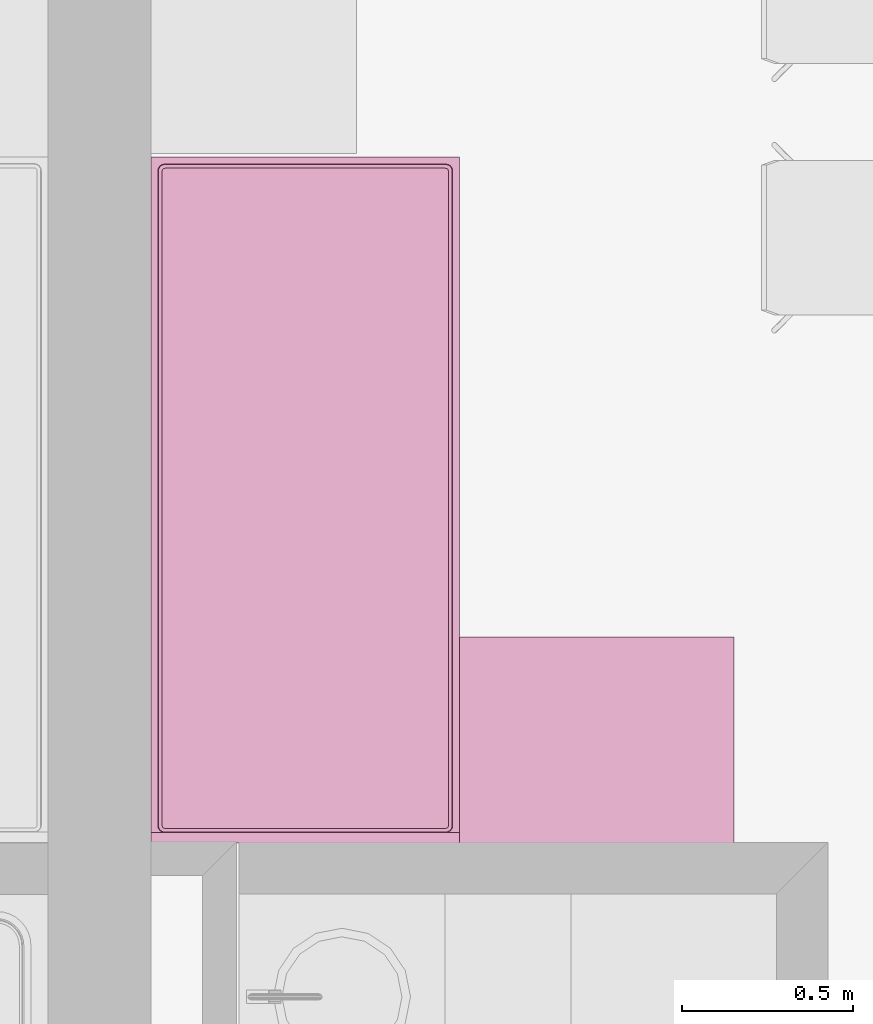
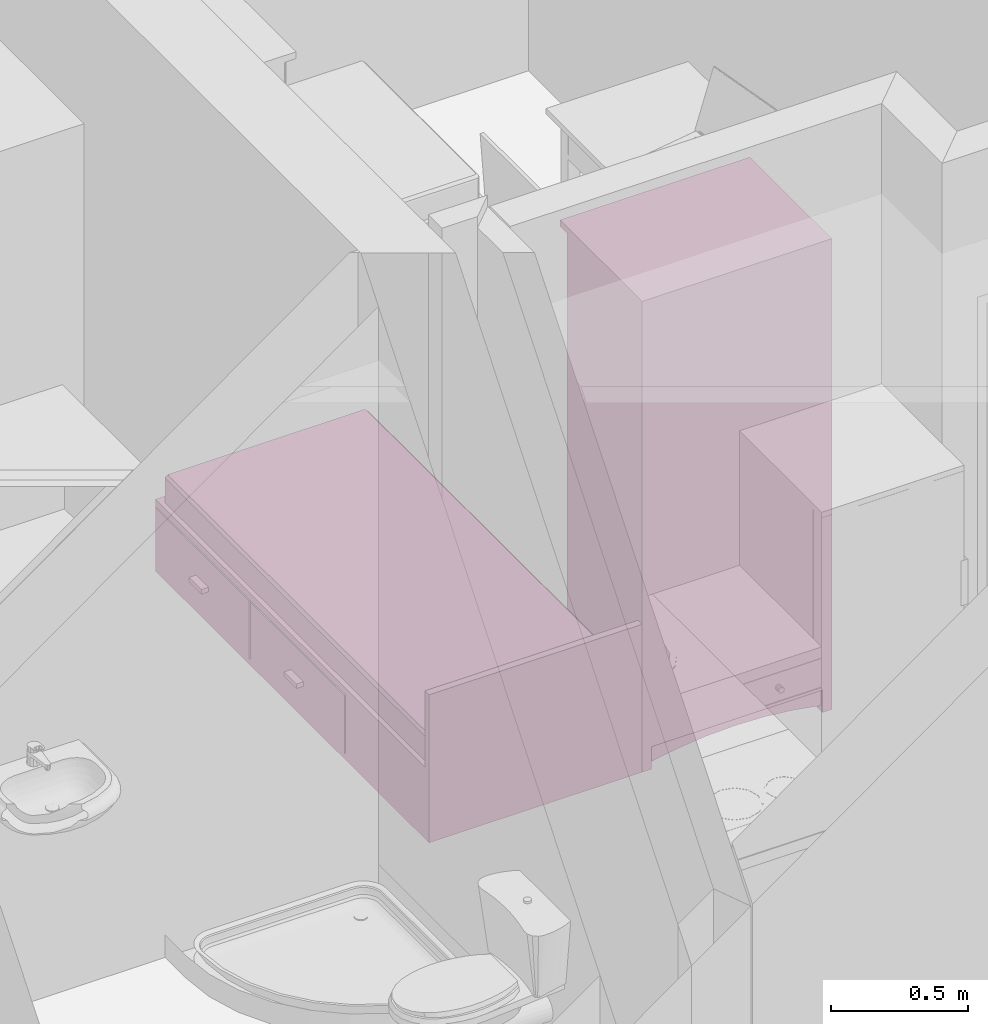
# One storey, part 137 of 172: 2 furnishings.
"""IFC2X3 building model written with IfcOpenShell, lengths in millimetres."""

from ifc_helpers import new_model, entity, si_unit, converted_unit, money_unit, direction, frame, origin_with_axes, place, context, subcontext, project, spatial, faceted_brep, source, transform, mapped, material, material_list, type_object, element, save


model = new_model("IFC2X3")

# Units and contexts
model_context = context("Model", 3, precision=1e-05, world=origin_with_axes(), true_north=direction((0.0, 1.0)))
body_context = subcontext(model_context, "Body", "Model", "MODEL_VIEW")
ifc_project = project(units=[si_unit("LENGTHUNIT", "METRE", prefix="MILLI"), si_unit("AREAUNIT", "SQUARE_METRE"), si_unit("VOLUMEUNIT", "CUBIC_METRE"), converted_unit("PLANEANGLEUNIT", "DEGREE", entity("IfcPlaneAngleMeasure", 0.0174532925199), si_unit("PLANEANGLEUNIT", "RADIAN"), dimensions=[0, 0, 0, 0, 0, 0, 0]), si_unit("SOLIDANGLEUNIT", "STERADIAN"), money_unit("USD"), converted_unit("TIMEUNIT", "Year", entity("IfcTimeMeasure", 31556926.0), si_unit("TIMEUNIT", "SECOND"), dimensions=[0, 0, 0, 0, 0, 0, 0]), si_unit("MASSUNIT", "GRAM"), si_unit("THERMODYNAMICTEMPERATUREUNIT", "DEGREE_CELSIUS"), si_unit("LUMINOUSINTENSITYUNIT", "LUMEN")], contexts=[model_context])

# Site, building, storey
site_placement = place(None, origin_with_axes())
site = spatial("IfcSite", under=ifc_project, at=site_placement, Name="Site", CompositionType="ELEMENT")
building_placement = place(site_placement, origin_with_axes())
building = spatial("IfcBuilding", under=site, at=building_placement, Name="Building", CompositionType="ELEMENT")
storey_placement = place(building_placement, frame((0.0, 0.0, 3200.0), z_axis=(0.0, 0.0, 1.0), x_axis=(1.0, 0.0, 0.0)))
storey = spatial("IfcBuildingStorey", under=building, at=storey_placement, Name="3KORRUS", CompositionType="ELEMENT", Elevation=3200.0)

# Furnishings
ifc_material = material(Name="Background")
ifc_material_list = material_list([ifc_material])
furnishing_element_type_1 = type_object("IfcFurnishingElementType", Name="Bed 19")
shared_shape_1 = source(origin_with_axes(), body_context, "Body", "Brep", [
    faceted_brep([(900.0, 1970.0, 0.0), (0.0, 1970.0, 0.0), (0.0, 2000.0, 0.0), (900.0, 2000.0, 0.0), (900.0, 1970.0, 660.0), (0.0, 1970.0, 660.0), (0.0, 2000.0, 660.0), (900.0, 2000.0, 660.0)], [[[0, 1, 2, 3]], [[1, 0, 4, 5]], [[2, 1, 5, 6]], [[3, 2, 6, 7]], [[0, 3, 7, 4]], [[5, 4, 7, 6]]]),
    faceted_brep([(900.0, 0.0, 0.0), (0.0, 0.0, 0.0), (0.0, 1970.0, 0.0), (900.0, 1970.0, 0.0), (900.0, 0.0, 320.0), (0.0, 0.0, 320.0), (0.0, 1970.0, 320.0), (900.0, 1970.0, 320.0)], [[[0, 1, 2, 3]], [[1, 0, 4, 5]], [[2, 1, 5, 6]], [[3, 2, 6, 7]], [[0, 3, 7, 4]], [[5, 4, 7, 6]]]),
    faceted_brep([(905.0, 10.0, 30.0), (900.0, 10.0, 30.0), (900.0, 695.0, 30.0), (905.0, 695.0, 30.0), (905.0, 10.0, 290.0), (900.0, 10.0, 290.0), (900.0, 695.0, 290.0), (905.0, 695.0, 290.0)], [[[0, 1, 2, 3]], [[1, 0, 4, 5]], [[2, 1, 5, 6]], [[3, 2, 6, 7]], [[0, 3, 7, 4]], [[5, 4, 7, 6]]]),
    faceted_brep([(935.0, 307.5, 150.0), (905.0, 307.5, 150.0), (905.0, 397.5, 150.0), (935.0, 397.5, 150.0), (935.0, 307.5, 170.0), (905.0, 307.5, 170.0), (905.0, 397.5, 170.0), (935.0, 397.5, 170.0)], [[[0, 1, 2, 3]], [[1, 0, 4, 5]], [[2, 1, 5, 6]], [[3, 2, 6, 7]], [[0, 3, 7, 4]], [[5, 4, 7, 6]]]),
    faceted_brep([(905.0, 705.0, 30.0), (900.0, 705.0, 30.0), (900.0, 1390.0, 30.0), (905.0, 1390.0, 30.0), (905.0, 705.0, 290.0), (900.0, 705.0, 290.0), (900.0, 1390.0, 290.0), (905.0, 1390.0, 290.0)], [[[0, 1, 2, 3]], [[1, 0, 4, 5]], [[2, 1, 5, 6]], [[3, 2, 6, 7]], [[0, 3, 7, 4]], [[5, 4, 7, 6]]]),
    faceted_brep([(935.0, 1002.5, 150.0), (905.0, 1002.5, 150.0), (905.0, 1092.5, 150.0), (935.0, 1092.5, 150.0), (935.0, 1002.5, 170.0), (905.0, 1002.5, 170.0), (905.0, 1092.5, 170.0), (935.0, 1092.5, 170.0)], [[[0, 1, 2, 3]], [[1, 0, 4, 5]], [[2, 1, 5, 6]], [[3, 2, 6, 7]], [[0, 3, 7, 4]], [[5, 4, 7, 6]]]),
    faceted_brep([(20.0, 40.0, 350.0), (20.0, 1950.0, 350.0), (21.522, 1957.654, 350.0), (25.858, 1964.142, 350.0), (32.346, 1968.478, 350.0), (40.0, 1970.0, 350.0), (860.0, 1970.0, 350.0), (867.654, 1968.478, 350.0), (874.142, 1964.142, 350.0), (878.478, 1957.654, 350.0), (880.0, 1950.0, 350.0), (880.0, 40.0, 350.0), (878.478, 32.346, 350.0), (874.142, 25.858, 350.0), (867.654, 21.522, 350.0), (860.0, 20.0, 350.0), (40.0, 20.0, 350.0), (32.346, 21.522, 350.0), (25.858, 25.858, 350.0), (21.522, 32.346, 350.0), (20.0, 40.0, 420.0), (20.0, 1950.0, 420.0), (21.522, 1957.654, 420.0), (25.858, 1964.142, 420.0), (32.346, 1968.478, 420.0), (40.0, 1970.0, 420.0), (860.0, 1970.0, 420.0), (867.654, 1968.478, 420.0), (874.142, 1964.142, 420.0), (878.478, 1957.654, 420.0), (880.0, 1950.0, 420.0), (880.0, 40.0, 420.0), (878.478, 32.346, 420.0), (874.142, 25.858, 420.0), (867.654, 21.522, 420.0), (860.0, 20.0, 420.0), (40.0, 20.0, 420.0), (32.346, 21.522, 420.0), (25.858, 25.858, 420.0), (21.522, 32.346, 420.0), (21.522, 40.15, 427.654), (21.522, 1949.85, 427.654), (22.956, 1957.06, 427.654), (26.955, 1963.045, 427.654), (32.94, 1967.044, 427.654), (40.15, 1968.478, 427.654), (859.85, 1968.478, 427.654), (867.06, 1967.044, 427.654), (873.045, 1963.045, 427.654), (877.044, 1957.06, 427.654), (878.478, 1949.85, 427.654), (878.478, 40.15, 427.654), (877.044, 32.94, 427.654), (873.045, 26.955, 427.654), (867.06, 22.956, 427.654), (859.85, 21.522, 427.654), (40.15, 21.522, 427.654), (32.94, 22.956, 427.654), (26.955, 26.955, 427.654), (22.956, 32.94, 427.654), (32.346, 41.216, 438.478), (32.346, 1948.784, 438.478), (33.152, 1952.836, 438.478), (34.759, 1955.241, 438.478), (37.164, 1956.848, 438.478), (41.216, 1957.654, 438.478), (858.784, 1957.654, 438.478), (862.836, 1956.848, 438.478), (865.241, 1955.241, 438.478), (866.848, 1952.836, 438.478), (867.654, 1948.784, 438.478), (867.654, 41.216, 438.478), (866.848, 37.164, 438.478), (865.241, 34.759, 438.478), (862.836, 33.152, 438.478), (858.784, 32.346, 438.478), (41.216, 32.346, 438.478), (37.164, 33.152, 438.478), (34.759, 34.759, 438.478), (33.152, 37.164, 438.478), (40.0, 41.97, 440.0), (40.0, 1948.03, 440.0), (40.327, 1949.673, 440.0), (40.0, 1950.0, 439.924), (41.97, 1950.0, 440.0), (858.03, 1950.0, 440.0), (859.673, 1949.673, 440.0), (860.0, 1950.0, 439.924), (860.0, 1948.03, 440.0), (860.0, 41.97, 440.0), (859.673, 40.327, 440.0), (860.0, 40.0, 439.924), (858.03, 40.0, 440.0), (41.97, 40.0, 440.0), (40.327, 40.327, 440.0), (40.0, 40.0, 439.924)], [[[0, 1, 2, 3, 4, 5, 6, 7, 8, 9, 10, 11, 12, 13, 14, 15, 16, 17, 18, 19]], [[1, 0, 20, 21]], [[2, 1, 21, 22]], [[3, 2, 22, 23]], [[4, 3, 23, 24]], [[5, 4, 24, 25]], [[6, 5, 25, 26]], [[7, 6, 26, 27]], [[8, 7, 27, 28]], [[9, 8, 28, 29]], [[10, 9, 29, 30]], [[11, 10, 30, 31]], [[12, 11, 31, 32]], [[13, 12, 32, 33]], [[14, 13, 33, 34]], [[15, 14, 34, 35]], [[16, 15, 35, 36]], [[17, 16, 36, 37]], [[18, 17, 37, 38]], [[19, 18, 38, 39]], [[0, 19, 39, 20]], [[21, 20, 40, 41]], [[22, 21, 41, 42]], [[23, 22, 42, 43]], [[24, 23, 43, 44]], [[25, 24, 44, 45]], [[26, 25, 45, 46]], [[27, 26, 46, 47]], [[28, 27, 47, 48]], [[29, 28, 48, 49]], [[30, 29, 49, 50]], [[31, 30, 50, 51]], [[32, 31, 51, 52]], [[33, 32, 52, 53]], [[34, 33, 53, 54]], [[35, 34, 54, 55]], [[36, 35, 55, 56]], [[37, 36, 56, 57]], [[38, 37, 57, 58]], [[39, 38, 58, 59]], [[20, 39, 59, 40]], [[41, 40, 60, 61]], [[42, 41, 61, 62]], [[43, 42, 62, 63]], [[44, 43, 63, 64]], [[45, 44, 64, 65]], [[46, 45, 65, 66]], [[47, 46, 66, 67]], [[48, 47, 67, 68]], [[49, 48, 68, 69]], [[50, 49, 69, 70]], [[51, 50, 70, 71]], [[52, 51, 71, 72]], [[53, 52, 72, 73]], [[54, 53, 73, 74]], [[55, 54, 74, 75]], [[56, 55, 75, 76]], [[57, 56, 76, 77]], [[58, 57, 77, 78]], [[59, 58, 78, 79]], [[40, 59, 79, 60]], [[61, 60, 80, 81]], [[62, 61, 81, 82, 83]], [[63, 62, 83]], [[64, 63, 83]], [[65, 64, 83, 82, 84]], [[66, 65, 84, 85]], [[67, 66, 85, 86, 87]], [[68, 67, 87]], [[69, 68, 87]], [[70, 69, 87, 86, 88]], [[71, 70, 88, 89]], [[72, 71, 89, 90, 91]], [[73, 72, 91]], [[74, 73, 91]], [[75, 74, 91, 90, 92]], [[76, 75, 92, 93]], [[77, 76, 93, 94, 95]], [[78, 77, 95]], [[79, 78, 95]], [[60, 79, 95, 94, 80]], [[81, 80, 94, 93, 92, 90, 89, 88, 86, 85, 84, 82]]]),
    faceted_brep([(20.0, 40.0, 350.0), (21.522, 32.346, 350.0), (25.858, 25.858, 350.0), (32.346, 21.522, 350.0), (40.0, 20.0, 350.0), (860.0, 20.0, 350.0), (867.654, 21.522, 350.0), (874.142, 25.858, 350.0), (878.478, 32.346, 350.0), (880.0, 40.0, 350.0), (880.0, 1950.0, 350.0), (878.478, 1957.654, 350.0), (874.142, 1964.142, 350.0), (867.654, 1968.478, 350.0), (860.0, 1970.0, 350.0), (40.0, 1970.0, 350.0), (32.346, 1968.478, 350.0), (25.858, 1964.142, 350.0), (21.522, 1957.654, 350.0), (20.0, 1950.0, 350.0), (20.0, 40.0, 320.0), (21.522, 32.346, 320.0), (25.858, 25.858, 320.0), (32.346, 21.522, 320.0), (40.0, 20.0, 320.0), (860.0, 20.0, 320.0), (867.654, 21.522, 320.0), (874.142, 25.858, 320.0), (878.478, 32.346, 320.0), (880.0, 40.0, 320.0), (880.0, 1950.0, 320.0), (878.478, 1957.654, 320.0), (874.142, 1964.142, 320.0), (867.654, 1968.478, 320.0), (860.0, 1970.0, 320.0), (40.0, 1970.0, 320.0), (32.346, 1968.478, 320.0), (25.858, 1964.142, 320.0), (21.522, 1957.654, 320.0), (20.0, 1950.0, 320.0)], [[[0, 1, 2, 3, 4, 5, 6, 7, 8, 9, 10, 11, 12, 13, 14, 15, 16, 17, 18, 19]], [[0, 20, 21, 1]], [[1, 21, 22, 2]], [[2, 22, 23, 3]], [[3, 23, 24, 4]], [[4, 24, 25, 5]], [[5, 25, 26, 6]], [[6, 26, 27, 7]], [[7, 27, 28, 8]], [[8, 28, 29, 9]], [[9, 29, 30, 10]], [[10, 30, 31, 11]], [[11, 31, 32, 12]], [[12, 32, 33, 13]], [[13, 33, 34, 14]], [[14, 34, 35, 15]], [[15, 35, 36, 16]], [[16, 36, 37, 17]], [[17, 37, 38, 18]], [[18, 38, 39, 19]], [[19, 39, 20, 0]], [[20, 39, 38, 37, 36, 35, 34, 33, 32, 31, 30, 29, 28, 27, 26, 25, 24, 23, 22, 21]]]),
])
furnishing_1_placement = place(storey_placement, frame((909.703296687, -7217.37850445, 0.0), z_axis=(0.0, 0.0, 1.0), x_axis=(-1.0, 0.0, 0.0)))
element("IfcFurnishingElement", 1, at=furnishing_1_placement, inside=storey, type_object=furnishing_element_type_1, material=ifc_material_list, Name="FU - 013", context=body_context, shape_type="MappedRepresentation", body=[
    mapped(shared_shape_1, transform((0.0, 0.0, 0.0))),
])
furnishing_element_type_2 = type_object("IfcFurnishingElementType", Name="Cupboard 19")
shared_shape_2 = source(origin_with_axes(), body_context, "Body", "Brep", [
    faceted_brep([(780.0, 600.0, 120.0), (780.0, 600.0, 2050.0), (780.0, 580.0, 2050.0), (780.0, 580.0, 120.0), (20.0, 600.0, 120.0), (20.0, 600.0, 2050.0), (20.0, 580.0, 2050.0), (20.0, 580.0, 120.0)], [[[0, 1, 2, 3]], [[4, 5, 1, 0]], [[1, 5, 6, 2]], [[3, 2, 6, 7]], [[0, 3, 7, 4]], [[7, 6, 5, 4]]]),
    faceted_brep([(0.0, 50.0, 100.0), (0.0, 600.0, 100.0), (20.0, 600.0, 100.0), (20.0, 50.0, 100.0), (0.0, 50.0, 2070.0), (0.0, 600.0, 2070.0), (20.0, 600.0, 2070.0), (20.0, 50.0, 2070.0)], [[[0, 1, 2, 3]], [[0, 4, 5, 1]], [[1, 5, 6, 2]], [[2, 6, 7, 3]], [[3, 7, 4, 0]], [[7, 6, 5, 4]]]),
    faceted_brep([(780.0, 50.0, 100.0), (780.0, 600.0, 100.0), (800.0, 600.0, 100.0), (800.0, 50.0, 100.0), (780.0, 50.0, 2070.0), (780.0, 600.0, 2070.0), (800.0, 600.0, 2070.0), (800.0, 50.0, 2070.0)], [[[0, 1, 2, 3]], [[0, 4, 5, 1]], [[1, 5, 6, 2]], [[2, 6, 7, 3]], [[3, 7, 4, 0]], [[7, 6, 5, 4]]]),
    faceted_brep([(20.0, 50.0, 100.0), (20.0, 600.0, 100.0), (780.0, 600.0, 100.0), (780.0, 50.0, 100.0), (20.0, 50.0, 120.0), (20.0, 600.0, 120.0), (780.0, 600.0, 120.0), (780.0, 50.0, 120.0)], [[[0, 1, 2, 3]], [[0, 4, 5, 1]], [[1, 5, 6, 2]], [[2, 6, 7, 3]], [[3, 7, 4, 0]], [[7, 6, 5, 4]]]),
    faceted_brep([(20.0, 50.0, 2050.0), (20.0, 600.0, 2050.0), (780.0, 600.0, 2050.0), (780.0, 50.0, 2050.0), (20.0, 50.0, 2070.0), (20.0, 600.0, 2070.0), (780.0, 600.0, 2070.0), (780.0, 50.0, 2070.0)], [[[0, 1, 2, 3]], [[0, 4, 5, 1]], [[1, 5, 6, 2]], [[2, 6, 7, 3]], [[3, 7, 4, 0]], [[7, 6, 5, 4]]]),
    faceted_brep([(0.0, 600.0, 2070.0), (0.0, 0.0, 2070.0), (0.0, 0.0, 2100.0), (0.0, 600.0, 2100.0), (800.0, 600.0, 2070.0), (800.0, 0.0, 2070.0), (800.0, 0.0, 2100.0), (800.0, 600.0, 2100.0)], [[[0, 1, 2, 3]], [[0, 4, 5, 1]], [[1, 5, 6, 2]], [[3, 2, 6, 7]], [[4, 0, 3, 7]], [[5, 4, 7, 6]]]),
    faceted_brep([(760.0, 590.0, 25.0), (760.0, 570.0, 25.0), (640.962, 570.0, 45.8), (640.962, 590.0, 45.8), (760.0, 590.0, 100.0), (760.0, 570.0, 100.0), (40.0, 570.0, 100.0), (40.0, 570.0, 25.0), (159.038, 570.0, 45.8), (279.23, 570.0, 58.32), (400.0, 570.0, 62.5), (520.77, 570.0, 58.32), (520.77, 590.0, 58.32), (400.0, 590.0, 62.5), (279.23, 590.0, 58.32), (159.038, 590.0, 45.8), (40.0, 590.0, 25.0), (40.0, 590.0, 100.0)], [[[0, 1, 2, 3]], [[4, 5, 1, 0]], [[1, 5, 6, 7, 8, 9, 10, 11, 2]], [[3, 2, 11, 12]], [[0, 3, 12, 13, 14, 15, 16, 17, 4]], [[17, 6, 5, 4]], [[16, 7, 6, 17]], [[15, 8, 7, 16]], [[14, 9, 8, 15]], [[13, 10, 9, 14]], [[12, 11, 10, 13]]]),
    faceted_brep([(760.0, 80.0, 25.0), (760.0, 60.0, 25.0), (640.962, 60.0, 45.8), (640.962, 80.0, 45.8), (760.0, 80.0, 100.0), (760.0, 60.0, 100.0), (40.0, 60.0, 100.0), (40.0, 60.0, 25.0), (159.038, 60.0, 45.8), (279.23, 60.0, 58.32), (400.0, 60.0, 62.5), (520.77, 60.0, 58.32), (520.77, 80.0, 58.32), (400.0, 80.0, 62.5), (279.23, 80.0, 58.32), (159.038, 80.0, 45.8), (40.0, 80.0, 25.0), (40.0, 80.0, 100.0)], [[[0, 1, 2, 3]], [[4, 5, 1, 0]], [[1, 5, 6, 7, 8, 9, 10, 11, 2]], [[3, 2, 11, 12]], [[0, 3, 12, 13, 14, 15, 16, 17, 4]], [[17, 6, 5, 4]], [[16, 7, 6, 17]], [[15, 8, 7, 16]], [[14, 9, 8, 15]], [[13, 10, 9, 14]], [[12, 11, 10, 13]]]),
    faceted_brep([(790.0, 90.0, 25.0), (770.0, 90.0, 25.0), (770.0, 141.266, 38.072), (790.0, 141.266, 38.072), (790.0, 90.0, 100.0), (770.0, 90.0, 100.0), (770.0, 560.0, 100.0), (770.0, 560.0, 25.0), (770.0, 508.734, 38.072), (770.0, 456.752, 47.92), (770.0, 404.257, 54.508), (770.0, 351.453, 57.808), (770.0, 298.547, 57.808), (770.0, 245.743, 54.508), (770.0, 193.248, 47.92), (790.0, 193.248, 47.92), (790.0, 245.743, 54.508), (790.0, 298.547, 57.808), (790.0, 351.453, 57.808), (790.0, 404.257, 54.508), (790.0, 456.752, 47.92), (790.0, 508.734, 38.072), (790.0, 560.0, 25.0), (790.0, 560.0, 100.0)], [[[0, 1, 2, 3]], [[4, 5, 1, 0]], [[1, 5, 6, 7, 8, 9, 10, 11, 12, 13, 14, 2]], [[3, 2, 14, 15]], [[0, 3, 15, 16, 17, 18, 19, 20, 21, 22, 23, 4]], [[23, 6, 5, 4]], [[22, 7, 6, 23]], [[21, 8, 7, 22]], [[20, 9, 8, 21]], [[19, 10, 9, 20]], [[18, 11, 10, 19]], [[17, 12, 11, 18]], [[16, 13, 12, 17]], [[15, 14, 13, 16]]]),
    faceted_brep([(30.0, 90.0, 25.0), (10.0, 90.0, 25.0), (10.0, 141.266, 38.072), (30.0, 141.266, 38.072), (30.0, 90.0, 100.0), (10.0, 90.0, 100.0), (10.0, 560.0, 100.0), (10.0, 560.0, 25.0), (10.0, 508.734, 38.072), (10.0, 456.752, 47.92), (10.0, 404.257, 54.508), (10.0, 351.453, 57.808), (10.0, 298.547, 57.808), (10.0, 245.743, 54.508), (10.0, 193.248, 47.92), (30.0, 193.248, 47.92), (30.0, 245.743, 54.508), (30.0, 298.547, 57.808), (30.0, 351.453, 57.808), (30.0, 404.257, 54.508), (30.0, 456.752, 47.92), (30.0, 508.734, 38.072), (30.0, 560.0, 25.0), (30.0, 560.0, 100.0)], [[[0, 1, 2, 3]], [[4, 5, 1, 0]], [[1, 5, 6, 7, 8, 9, 10, 11, 12, 13, 14, 2]], [[3, 2, 14, 15]], [[0, 3, 15, 16, 17, 18, 19, 20, 21, 22, 23, 4]], [[23, 6, 5, 4]], [[22, 7, 6, 23]], [[21, 8, 7, 22]], [[20, 9, 8, 21]], [[19, 10, 9, 20]], [[18, 11, 10, 19]], [[17, 12, 11, 18]], [[16, 13, 12, 17]], [[15, 14, 13, 16]]]),
    faceted_brep([(760.0, 560.0, 0.0), (760.0, 560.0, 100.0), (760.0, 600.0, 100.0), (760.0, 600.0, 0.0), (800.0, 560.0, 0.0), (800.0, 560.0, 100.0), (800.0, 600.0, 100.0), (800.0, 600.0, 0.0)], [[[0, 1, 2, 3]], [[4, 5, 1, 0]], [[1, 5, 6, 2]], [[3, 2, 6, 7]], [[0, 3, 7, 4]], [[7, 6, 5, 4]]]),
    faceted_brep([(0.0, 560.0, 0.0), (0.0, 560.0, 100.0), (0.0, 600.0, 100.0), (0.0, 600.0, 0.0), (40.0, 560.0, 0.0), (40.0, 560.0, 100.0), (40.0, 600.0, 100.0), (40.0, 600.0, 0.0)], [[[0, 1, 2, 3]], [[4, 5, 1, 0]], [[1, 5, 6, 2]], [[3, 2, 6, 7]], [[0, 3, 7, 4]], [[7, 6, 5, 4]]]),
    faceted_brep([(760.0, 50.0, 0.0), (760.0, 50.0, 100.0), (760.0, 90.0, 100.0), (760.0, 90.0, 0.0), (800.0, 50.0, 0.0), (800.0, 50.0, 100.0), (800.0, 90.0, 100.0), (800.0, 90.0, 0.0)], [[[0, 1, 2, 3]], [[4, 5, 1, 0]], [[1, 5, 6, 2]], [[3, 2, 6, 7]], [[0, 3, 7, 4]], [[7, 6, 5, 4]]]),
    faceted_brep([(0.0, 50.0, 0.0), (0.0, 50.0, 100.0), (0.0, 90.0, 100.0), (0.0, 90.0, 0.0), (40.0, 50.0, 0.0), (40.0, 50.0, 100.0), (40.0, 90.0, 100.0), (40.0, 90.0, 0.0)], [[[0, 1, 2, 3]], [[4, 5, 1, 0]], [[1, 5, 6, 2]], [[3, 2, 6, 7]], [[0, 3, 7, 4]], [[7, 6, 5, 4]]]),
    faceted_brep([(780.0, 580.0, 587.5), (780.0, 580.0, 607.5), (780.0, 50.0, 607.5), (780.0, 50.0, 587.5), (20.0, 580.0, 587.5), (20.0, 580.0, 607.5), (20.0, 50.0, 607.5), (20.0, 50.0, 587.5)], [[[0, 1, 2, 3]], [[4, 5, 1, 0]], [[1, 5, 6, 2]], [[3, 2, 6, 7]], [[0, 3, 7, 4]], [[7, 6, 5, 4]]]),
    faceted_brep([(780.0, 580.0, 1075.0), (780.0, 580.0, 1095.0), (780.0, 50.0, 1095.0), (780.0, 50.0, 1075.0), (20.0, 580.0, 1075.0), (20.0, 580.0, 1095.0), (20.0, 50.0, 1095.0), (20.0, 50.0, 1075.0)], [[[0, 1, 2, 3]], [[4, 5, 1, 0]], [[1, 5, 6, 2]], [[3, 2, 6, 7]], [[0, 3, 7, 4]], [[7, 6, 5, 4]]]),
    faceted_brep([(780.0, 580.0, 1562.5), (780.0, 580.0, 1582.5), (780.0, 50.0, 1582.5), (780.0, 50.0, 1562.5), (20.0, 580.0, 1562.5), (20.0, 580.0, 1582.5), (20.0, 50.0, 1582.5), (20.0, 50.0, 1562.5)], [[[0, 1, 2, 3]], [[4, 5, 1, 0]], [[1, 5, 6, 2]], [[3, 2, 6, 7]], [[0, 3, 7, 4]], [[7, 6, 5, 4]]]),
    faceted_brep([(789.5, 50.0, 110.5), (400.5, 50.0, 110.5), (400.5, 50.0, 2059.5), (789.5, 50.0, 2059.5), (789.5, 40.0, 110.5), (400.5, 40.0, 110.5), (400.5, 40.0, 2059.5), (789.5, 40.0, 2059.5), (779.5, 30.0, 120.5), (410.5, 30.0, 120.5), (410.5, 30.0, 2049.5), (779.5, 30.0, 2049.5)], [[[0, 1, 2, 3]], [[0, 4, 5, 1]], [[1, 5, 6, 2]], [[2, 6, 7, 3]], [[3, 7, 4, 0]], [[4, 8, 9, 5]], [[5, 9, 10, 6]], [[6, 10, 11, 7]], [[7, 11, 8, 4]], [[10, 9, 8, 11]]]),
    faceted_brep([(399.5, 50.0, 110.5), (10.5, 50.0, 110.5), (10.5, 50.0, 2059.5), (399.5, 50.0, 2059.5), (399.5, 40.0, 110.5), (10.5, 40.0, 110.5), (10.5, 40.0, 2059.5), (399.5, 40.0, 2059.5), (389.5, 30.0, 120.5), (20.5, 30.0, 120.5), (20.5, 30.0, 2049.5), (389.5, 30.0, 2049.5)], [[[0, 1, 2, 3]], [[0, 4, 5, 1]], [[1, 5, 6, 2]], [[2, 6, 7, 3]], [[3, 7, 4, 0]], [[4, 8, 9, 5]], [[5, 9, 10, 6]], [[6, 10, 11, 7]], [[7, 11, 8, 4]], [[10, 9, 8, 11]]]),
    faceted_brep([(339.608, 30.0, 954.0), (338.0, 30.0, 960.0), (339.608, 30.0, 966.0), (344.0, 30.0, 970.392), (350.0, 30.0, 972.0), (356.0, 30.0, 970.392), (360.392, 30.0, 966.0), (362.0, 30.0, 960.0), (360.392, 30.0, 954.0), (356.0, 30.0, 949.608), (350.0, 30.0, 948.0), (344.0, 30.0, 949.608), (339.608, 5.0, 954.0), (338.0, 5.0, 960.0), (339.608, 5.0, 966.0), (344.0, 5.0, 970.392), (350.0, 5.0, 972.0), (356.0, 5.0, 970.392), (360.392, 5.0, 966.0), (362.0, 5.0, 960.0), (360.392, 5.0, 954.0), (356.0, 5.0, 949.608), (350.0, 5.0, 948.0), (344.0, 5.0, 949.608)], [[[0, 1, 2, 3, 4, 5, 6, 7, 8, 9, 10, 11]], [[0, 12, 13, 1]], [[1, 13, 14, 2]], [[2, 14, 15, 3]], [[3, 15, 16, 4]], [[4, 16, 17, 5]], [[5, 17, 18, 6]], [[6, 18, 19, 7]], [[7, 19, 20, 8]], [[8, 20, 21, 9]], [[9, 21, 22, 10]], [[10, 22, 23, 11]], [[11, 23, 12, 0]], [[12, 23, 22, 21, 20, 19, 18, 17, 16, 15, 14, 13]]]),
    faceted_brep([(460.392, 30.0, 954.0), (456.0, 30.0, 949.608), (450.0, 30.0, 948.0), (444.0, 30.0, 949.608), (439.608, 30.0, 954.0), (438.0, 30.0, 960.0), (439.608, 30.0, 966.0), (444.0, 30.0, 970.392), (450.0, 30.0, 972.0), (456.0, 30.0, 970.392), (460.392, 30.0, 966.0), (462.0, 30.0, 960.0), (460.392, 5.0, 954.0), (456.0, 5.0, 949.608), (450.0, 5.0, 948.0), (444.0, 5.0, 949.608), (439.608, 5.0, 954.0), (438.0, 5.0, 960.0), (439.608, 5.0, 966.0), (444.0, 5.0, 970.392), (450.0, 5.0, 972.0), (456.0, 5.0, 970.392), (460.392, 5.0, 966.0), (462.0, 5.0, 960.0)], [[[0, 1, 2, 3, 4, 5, 6, 7, 8, 9, 10, 11]], [[1, 0, 12, 13]], [[2, 1, 13, 14]], [[3, 2, 14, 15]], [[4, 3, 15, 16]], [[5, 4, 16, 17]], [[6, 5, 17, 18]], [[7, 6, 18, 19]], [[8, 7, 19, 20]], [[9, 8, 20, 21]], [[10, 9, 21, 22]], [[11, 10, 22, 23]], [[0, 11, 23, 12]], [[12, 23, 22, 21, 20, 19, 18, 17, 16, 15, 14, 13]]]),
])
furnishing_2_placement = place(storey_placement, frame((1709.70329669, -8617.37850445, 0.0), z_axis=(0.0, 0.0, 1.0), x_axis=(-1.0, 0.0, 0.0)))
element("IfcFurnishingElement", 2, at=furnishing_2_placement, inside=storey, type_object=furnishing_element_type_2, material=ifc_material_list, Name="FU - 014", context=body_context, shape_type="MappedRepresentation", body=[
    mapped(shared_shape_2, transform((0.0, 0.0, 0.0))),
])

save(model, "model.ifc")
